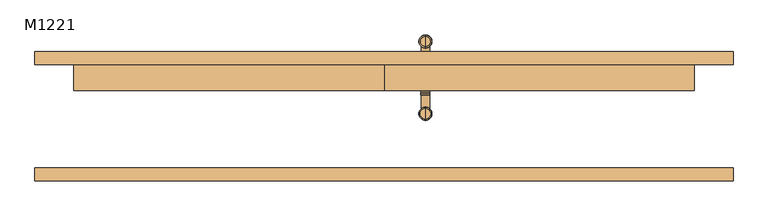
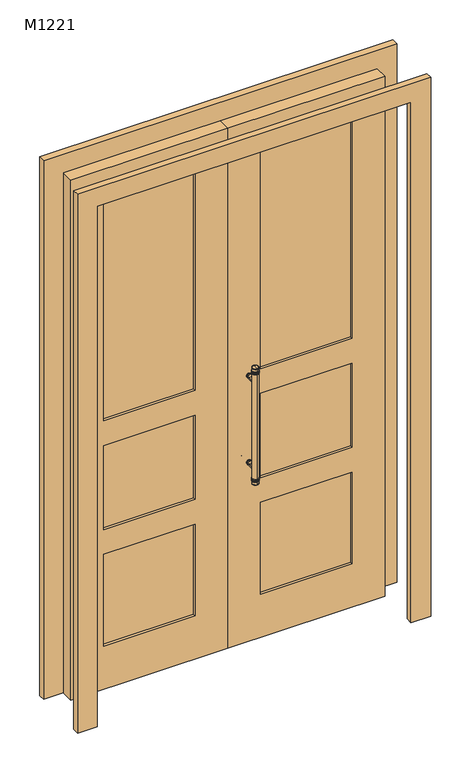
"""IFC4 building model written with IfcOpenShell, lengths in millimetres: door geometry, 双面嵌板木门 2 : M1221."""

from ifc_helpers import new_model, si_unit, point, frame, origin, place, context, project, spatial, polyline, circle_curve, ellipse_curve, trimmed, outline, extrude, source, transform, mapped, element, save
from ifc_brep_helpers import plane_surface, cylinder_surface, revolved_surface, advanced_brep


def m1221_025b83c5(model_context):
    return source(origin(), model_context, "Body", "SolidModel", [
        advanced_brep(
        [(80.0, 100.0, 1075.0), (72.0, 100.0, 1075.0), (88.0, 100.0, 1075.0), (88.0, 109.0, 1075.0), (72.0, 109.0, 1075.0), (80.0, 109.0, 1075.0), (88.0, 106.0, 1075.0), (72.0, 106.0, 1075.0), (88.0, 103.0, 1075.0), (72.0, 103.0, 1075.0)],
        [
            (0, 1),
            (1, 2, circle_curve(frame((80.0, 100.0, 1075.0), z_axis=(0.0, -1.0, 0.0), x_axis=(-1.0, 0.0, 0.0)), 8.0)),
            (2, 0),
            (2, 1, circle_curve(frame((80.0, 100.0, 1075.0), z_axis=(0.0, -1.0, 0.0), x_axis=(-1.0, 0.0, 0.0)), 8.0)),
            (3, 4, circle_curve(frame((80.0, 109.0, 1075.0), z_axis=(0.0, 1.0, 0.0), x_axis=(-1.0, 0.0, 0.0)), 8.0)),
            (4, 5),
            (5, 3),
            (4, 3, circle_curve(frame((80.0, 109.0, 1075.0), z_axis=(0.0, 1.0, 0.0), x_axis=(-1.0, 0.0, 0.0)), 8.0)),
            (6, 7, circle_curve(frame((80.0, 106.0, 1075.0), z_axis=(0.0, 1.0, 0.0), x_axis=(-1.0, 0.0, 0.0)), 8.0)),
            (7, 4, circle_curve(frame((73.3228757, 107.5, 1075.0), z_axis=(0.0, 0.0, -1.0), x_axis=(-1.0, 0.0, 0.0)), 2.0)),
            (3, 6, circle_curve(frame((86.6771243, 107.5, 1075.0), z_axis=(0.0, 0.0, -1.0), x_axis=(1.0, 0.0, 0.0)), 2.0)),
            (7, 6, circle_curve(frame((80.0, 106.0, 1075.0), z_axis=(0.0, 1.0, 0.0), x_axis=(-1.0, 0.0, 0.0)), 8.0)),
            (8, 9, circle_curve(frame((80.0, 103.0, 1075.0), z_axis=(0.0, 1.0, 0.0), x_axis=(-1.0, 0.0, 0.0)), 8.0)),
            (9, 7, circle_curve(frame((73.3228757, 104.5, 1075.0), z_axis=(0.0, 0.0, -1.0), x_axis=(-1.0, 0.0, 0.0)), 2.0)),
            (6, 8, circle_curve(frame((86.6771243, 104.5, 1075.0), z_axis=(0.0, 0.0, -1.0), x_axis=(1.0, 0.0, 0.0)), 2.0)),
            (9, 8, circle_curve(frame((80.0, 103.0, 1075.0), z_axis=(0.0, 1.0, 0.0), x_axis=(-1.0, 0.0, 0.0)), 8.0)),
            (1, 9, circle_curve(frame((73.3228757, 101.5, 1075.0), z_axis=(0.0, 0.0, -1.0), x_axis=(-1.0, 0.0, 0.0)), 2.0)),
            (8, 2, circle_curve(frame((86.6771243, 101.5, 1075.0), z_axis=(0.0, 0.0, -1.0), x_axis=(1.0, 0.0, 0.0)), 2.0)),
        ],
        [
            plane_surface(frame((80.0, 100.0, 1075.0), z_axis=(0.0, -1.0, 0.0), x_axis=(-1.0, 0.0, 0.0))),
            plane_surface(frame((80.0, 109.0, 1075.0), z_axis=(0.0, 1.0, 0.0), x_axis=(-1.0, 0.0, 0.0))),
            revolved_surface(trimmed(ellipse_curve(frame((73.3228757, 107.5, 1075.0), z_axis=(0.0, 0.0, 1.0), x_axis=(-1.0, 0.0, 0.0)), 2.0, 2.0), [point((72.0, 109.0, 1075.0))], [point((72.0, 106.0, 1075.0))], True, "CARTESIAN"), (80.0, -40.0, 1075.0), (0.0, -1.0, 0.0)),
            revolved_surface(trimmed(ellipse_curve(frame((73.3228757, 104.5, 1075.0), z_axis=(0.0, 0.0, 1.0), x_axis=(-1.0, 0.0, 0.0)), 2.0, 2.0), [point((72.0, 106.0, 1075.0))], [point((72.0, 103.0, 1075.0))], True, "CARTESIAN"), (80.0, -40.0, 1075.0), (0.0, -1.0, 0.0)),
            revolved_surface(trimmed(ellipse_curve(frame((73.3228757, 101.5, 1075.0), z_axis=(0.0, 0.0, 1.0), x_axis=(-1.0, 0.0, 0.0)), 2.0, 2.0), [point((72.0, 103.0, 1075.0))], [point((72.0, 100.0, 1075.0))], True, "CARTESIAN"), (80.0, -40.0, 1075.0), (0.0, -1.0, 0.0)),
        ],
        [
            (0, [[1, 2, 3]]),
            (0, [[-3, 4, -1]]),
            (1, [[5, 6, 7]]),
            (1, [[8, -7, -6]]),
            (2, [[9, 10, -5, 11]]),
            (2, [[12, -11, -8, -10]]),
            (3, [[13, 14, -9, 15]]),
            (3, [[16, -15, -12, -14]]),
            (4, [[-2, 17, -13, 18]]),
            (4, [[-4, -18, -16, -17]]),
        ],
    ),
        advanced_brep(
        [(88.0, 47.0, 1075.0), (72.0, 47.0, 1075.0), (72.0, 50.0, 1075.0), (88.0, 50.0, 1075.0), (88.0, 44.0, 1075.0), (72.0, 44.0, 1075.0), (88.0, 41.0, 1075.0), (72.0, 41.0, 1075.0), (80.0, 41.0, 1075.0), (80.0, 50.0, 1075.0)],
        [
            (0, 1, circle_curve(frame((80.0, 47.0, 1075.0), z_axis=(0.0, 1.0, 0.0), x_axis=(-1.0, 0.0, 0.0)), 8.0)),
            (1, 2, circle_curve(frame((73.3228757, 48.5, 1075.0), z_axis=(0.0, 0.0, -1.0), x_axis=(-1.0, 0.0, 0.0)), 2.0)),
            (2, 3, circle_curve(frame((80.0, 50.0, 1075.0), z_axis=(0.0, -1.0, 0.0), x_axis=(-1.0, 0.0, 0.0)), 8.0)),
            (3, 0, circle_curve(frame((86.6771243, 48.5, 1075.0), z_axis=(0.0, 0.0, -1.0), x_axis=(1.0, 0.0, 0.0)), 2.0)),
            (1, 0, circle_curve(frame((80.0, 47.0, 1075.0), z_axis=(0.0, 1.0, 0.0), x_axis=(-1.0, 0.0, 0.0)), 8.0)),
            (3, 2, circle_curve(frame((80.0, 50.0, 1075.0), z_axis=(0.0, -1.0, 0.0), x_axis=(-1.0, 0.0, 0.0)), 8.0)),
            (4, 5, circle_curve(frame((80.0, 44.0, 1075.0), z_axis=(0.0, 1.0, 0.0), x_axis=(-1.0, 0.0, 0.0)), 8.0)),
            (5, 1, circle_curve(frame((73.3228757, 45.5, 1075.0), z_axis=(0.0, 0.0, -1.0), x_axis=(-1.0, 0.0, 0.0)), 2.0)),
            (0, 4, circle_curve(frame((86.6771243, 45.5, 1075.0), z_axis=(0.0, 0.0, -1.0), x_axis=(1.0, 0.0, 0.0)), 2.0)),
            (5, 4, circle_curve(frame((80.0, 44.0, 1075.0), z_axis=(0.0, 1.0, 0.0), x_axis=(-1.0, 0.0, 0.0)), 8.0)),
            (6, 7, circle_curve(frame((80.0, 41.0, 1075.0), z_axis=(0.0, 1.0, 0.0), x_axis=(-1.0, 0.0, 0.0)), 8.0)),
            (7, 5, circle_curve(frame((73.3228757, 42.5, 1075.0), z_axis=(0.0, 0.0, -1.0), x_axis=(-1.0, 0.0, 0.0)), 2.0)),
            (4, 6, circle_curve(frame((86.6771243, 42.5, 1075.0), z_axis=(0.0, 0.0, -1.0), x_axis=(1.0, 0.0, 0.0)), 2.0)),
            (7, 6, circle_curve(frame((80.0, 41.0, 1075.0), z_axis=(0.0, 1.0, 0.0), x_axis=(-1.0, 0.0, 0.0)), 8.0)),
            (8, 7),
            (6, 8),
            (2, 9),
            (9, 3),
        ],
        [
            revolved_surface(trimmed(ellipse_curve(frame((73.3228757, 48.5, 1075.0), z_axis=(0.0, 0.0, 1.0), x_axis=(-1.0, 0.0, 0.0)), 2.0, 2.0), [point((72.0, 50.0, 1075.0))], [point((72.0, 47.0, 1075.0))], True, "CARTESIAN"), (80.0, -40.0, 1075.0), (0.0, -1.0, 0.0)),
            revolved_surface(trimmed(ellipse_curve(frame((73.3228757, 45.5, 1075.0), z_axis=(0.0, 0.0, 1.0), x_axis=(-1.0, 0.0, 0.0)), 2.0, 2.0), [point((72.0, 47.0, 1075.0))], [point((72.0, 44.0, 1075.0))], True, "CARTESIAN"), (80.0, -40.0, 1075.0), (0.0, -1.0, 0.0)),
            revolved_surface(trimmed(ellipse_curve(frame((73.3228757, 42.5, 1075.0), z_axis=(0.0, 0.0, 1.0), x_axis=(-1.0, 0.0, 0.0)), 2.0, 2.0), [point((72.0, 44.0, 1075.0))], [point((72.0, 41.0, 1075.0))], True, "CARTESIAN"), (80.0, -40.0, 1075.0), (0.0, -1.0, 0.0)),
            plane_surface(frame((80.0, 41.0, 1075.0), z_axis=(0.0, -1.0, 0.0), x_axis=(-1.0, 0.0, 0.0))),
            plane_surface(frame((80.0, 50.0, 1075.0), z_axis=(0.0, 1.0, 0.0), x_axis=(-1.0, 0.0, 0.0))),
        ],
        [
            (0, [[1, 2, 3, 4]]),
            (0, [[5, -4, 6, -2]]),
            (1, [[7, 8, -1, 9]]),
            (1, [[10, -9, -5, -8]]),
            (2, [[11, 12, -7, 13]]),
            (2, [[14, -13, -10, -12]]),
            (3, [[15, -11, 16]]),
            (3, [[-16, -14, -15]]),
            (4, [[-3, 17, 18]]),
            (4, [[-6, -18, -17]]),
        ],
    ),
        advanced_brep(
        [(80.0, 100.0, 725.0), (72.0, 100.0, 725.0), (88.0, 100.0, 725.0), (88.0, 109.0, 725.0), (72.0, 109.0, 725.0), (80.0, 109.0, 725.0), (88.0, 106.0, 725.0), (72.0, 106.0, 725.0), (88.0, 103.0, 725.0), (72.0, 103.0, 725.0)],
        [
            (0, 1),
            (1, 2, circle_curve(frame((80.0, 100.0, 725.0), z_axis=(0.0, -1.0, 0.0), x_axis=(-1.0, 0.0, 0.0)), 8.0)),
            (2, 0),
            (2, 1, circle_curve(frame((80.0, 100.0, 725.0), z_axis=(0.0, -1.0, 0.0), x_axis=(-1.0, 0.0, 0.0)), 8.0)),
            (3, 4, circle_curve(frame((80.0, 109.0, 725.0), z_axis=(0.0, 1.0, 0.0), x_axis=(-1.0, 0.0, 0.0)), 8.0)),
            (4, 5),
            (5, 3),
            (4, 3, circle_curve(frame((80.0, 109.0, 725.0), z_axis=(0.0, 1.0, 0.0), x_axis=(-1.0, 0.0, 0.0)), 8.0)),
            (6, 7, circle_curve(frame((80.0, 106.0, 725.0), z_axis=(0.0, 1.0, 0.0), x_axis=(-1.0, 0.0, 0.0)), 8.0)),
            (7, 4, circle_curve(frame((73.3228757, 107.5, 725.0), z_axis=(0.0, 0.0, -1.0), x_axis=(-1.0, 0.0, 0.0)), 2.0)),
            (3, 6, circle_curve(frame((86.6771243, 107.5, 725.0), z_axis=(0.0, 0.0, -1.0), x_axis=(1.0, 0.0, 0.0)), 2.0)),
            (7, 6, circle_curve(frame((80.0, 106.0, 725.0), z_axis=(0.0, 1.0, 0.0), x_axis=(-1.0, 0.0, 0.0)), 8.0)),
            (8, 9, circle_curve(frame((80.0, 103.0, 725.0), z_axis=(0.0, 1.0, 0.0), x_axis=(-1.0, 0.0, 0.0)), 8.0)),
            (9, 7, circle_curve(frame((73.3228757, 104.5, 725.0), z_axis=(0.0, 0.0, -1.0), x_axis=(-1.0, 0.0, 0.0)), 2.0)),
            (6, 8, circle_curve(frame((86.6771243, 104.5, 725.0), z_axis=(0.0, 0.0, -1.0), x_axis=(1.0, 0.0, 0.0)), 2.0)),
            (9, 8, circle_curve(frame((80.0, 103.0, 725.0), z_axis=(0.0, 1.0, 0.0), x_axis=(-1.0, 0.0, 0.0)), 8.0)),
            (1, 9, circle_curve(frame((73.3228757, 101.5, 725.0), z_axis=(0.0, 0.0, -1.0), x_axis=(-1.0, 0.0, 0.0)), 2.0)),
            (8, 2, circle_curve(frame((86.6771243, 101.5, 725.0), z_axis=(0.0, 0.0, -1.0), x_axis=(1.0, 0.0, 0.0)), 2.0)),
        ],
        [
            plane_surface(frame((80.0, 100.0, 725.0), z_axis=(0.0, -1.0, 0.0), x_axis=(-1.0, 0.0, 0.0))),
            plane_surface(frame((80.0, 109.0, 725.0), z_axis=(0.0, 1.0, 0.0), x_axis=(-1.0, 0.0, 0.0))),
            revolved_surface(trimmed(ellipse_curve(frame((73.3228757, 107.5, 725.0), z_axis=(0.0, 0.0, 1.0), x_axis=(-1.0, 0.0, 0.0)), 2.0, 2.0), [point((72.0, 109.0, 725.0))], [point((72.0, 106.0, 725.0))], True, "CARTESIAN"), (80.0, -40.0, 725.0), (0.0, -1.0, 0.0)),
            revolved_surface(trimmed(ellipse_curve(frame((73.3228757, 104.5, 725.0), z_axis=(0.0, 0.0, 1.0), x_axis=(-1.0, 0.0, 0.0)), 2.0, 2.0), [point((72.0, 106.0, 725.0))], [point((72.0, 103.0, 725.0))], True, "CARTESIAN"), (80.0, -40.0, 725.0), (0.0, -1.0, 0.0)),
            revolved_surface(trimmed(ellipse_curve(frame((73.3228757, 101.5, 725.0), z_axis=(0.0, 0.0, 1.0), x_axis=(-1.0, 0.0, 0.0)), 2.0, 2.0), [point((72.0, 103.0, 725.0))], [point((72.0, 100.0, 725.0))], True, "CARTESIAN"), (80.0, -40.0, 725.0), (0.0, -1.0, 0.0)),
        ],
        [
            (0, [[1, 2, 3]]),
            (0, [[-3, 4, -1]]),
            (1, [[5, 6, 7]]),
            (1, [[8, -7, -6]]),
            (2, [[9, 10, -5, 11]]),
            (2, [[12, -11, -8, -10]]),
            (3, [[13, 14, -9, 15]]),
            (3, [[16, -15, -12, -14]]),
            (4, [[-2, 17, -13, 18]]),
            (4, [[-4, -18, -16, -17]]),
        ],
    ),
        advanced_brep(
        [(88.0, 47.0, 725.0), (72.0, 47.0, 725.0), (72.0, 50.0, 725.0), (88.0, 50.0, 725.0), (88.0, 44.0, 725.0), (72.0, 44.0, 725.0), (88.0, 41.0, 725.0), (72.0, 41.0, 725.0), (80.0, 41.0, 725.0), (80.0, 50.0, 725.0)],
        [
            (0, 1, circle_curve(frame((80.0, 47.0, 725.0), z_axis=(0.0, 1.0, 0.0), x_axis=(-1.0, 0.0, 0.0)), 8.0)),
            (1, 2, circle_curve(frame((73.3228757, 48.5, 725.0), z_axis=(0.0, 0.0, -1.0), x_axis=(-1.0, 0.0, 0.0)), 2.0)),
            (2, 3, circle_curve(frame((80.0, 50.0, 725.0), z_axis=(0.0, -1.0, 0.0), x_axis=(-1.0, 0.0, 0.0)), 8.0)),
            (3, 0, circle_curve(frame((86.6771243, 48.5, 725.0), z_axis=(0.0, 0.0, -1.0), x_axis=(1.0, 0.0, 0.0)), 2.0)),
            (1, 0, circle_curve(frame((80.0, 47.0, 725.0), z_axis=(0.0, 1.0, 0.0), x_axis=(-1.0, 0.0, 0.0)), 8.0)),
            (3, 2, circle_curve(frame((80.0, 50.0, 725.0), z_axis=(0.0, -1.0, 0.0), x_axis=(-1.0, 0.0, 0.0)), 8.0)),
            (4, 5, circle_curve(frame((80.0, 44.0, 725.0), z_axis=(0.0, 1.0, 0.0), x_axis=(-1.0, 0.0, 0.0)), 8.0)),
            (5, 1, circle_curve(frame((73.3228757, 45.5, 725.0), z_axis=(0.0, 0.0, -1.0), x_axis=(-1.0, 0.0, 0.0)), 2.0)),
            (0, 4, circle_curve(frame((86.6771243, 45.5, 725.0), z_axis=(0.0, 0.0, -1.0), x_axis=(1.0, 0.0, 0.0)), 2.0)),
            (5, 4, circle_curve(frame((80.0, 44.0, 725.0), z_axis=(0.0, 1.0, 0.0), x_axis=(-1.0, 0.0, 0.0)), 8.0)),
            (6, 7, circle_curve(frame((80.0, 41.0, 725.0), z_axis=(0.0, 1.0, 0.0), x_axis=(-1.0, 0.0, 0.0)), 8.0)),
            (7, 5, circle_curve(frame((73.3228757, 42.5, 725.0), z_axis=(0.0, 0.0, -1.0), x_axis=(-1.0, 0.0, 0.0)), 2.0)),
            (4, 6, circle_curve(frame((86.6771243, 42.5, 725.0), z_axis=(0.0, 0.0, -1.0), x_axis=(1.0, 0.0, 0.0)), 2.0)),
            (7, 6, circle_curve(frame((80.0, 41.0, 725.0), z_axis=(0.0, 1.0, 0.0), x_axis=(-1.0, 0.0, 0.0)), 8.0)),
            (8, 7),
            (6, 8),
            (2, 9),
            (9, 3),
        ],
        [
            revolved_surface(trimmed(ellipse_curve(frame((73.3228757, 48.5, 725.0), z_axis=(0.0, 0.0, 1.0), x_axis=(-1.0, 0.0, 0.0)), 2.0, 2.0), [point((72.0, 50.0, 725.0))], [point((72.0, 47.0, 725.0))], True, "CARTESIAN"), (80.0, -40.0, 725.0), (0.0, -1.0, 0.0)),
            revolved_surface(trimmed(ellipse_curve(frame((73.3228757, 45.5, 725.0), z_axis=(0.0, 0.0, 1.0), x_axis=(-1.0, 0.0, 0.0)), 2.0, 2.0), [point((72.0, 47.0, 725.0))], [point((72.0, 44.0, 725.0))], True, "CARTESIAN"), (80.0, -40.0, 725.0), (0.0, -1.0, 0.0)),
            revolved_surface(trimmed(ellipse_curve(frame((73.3228757, 42.5, 725.0), z_axis=(0.0, 0.0, 1.0), x_axis=(-1.0, 0.0, 0.0)), 2.0, 2.0), [point((72.0, 44.0, 725.0))], [point((72.0, 41.0, 725.0))], True, "CARTESIAN"), (80.0, -40.0, 725.0), (0.0, -1.0, 0.0)),
            plane_surface(frame((80.0, 41.0, 725.0), z_axis=(0.0, -1.0, 0.0), x_axis=(-1.0, 0.0, 0.0))),
            plane_surface(frame((80.0, 50.0, 725.0), z_axis=(0.0, 1.0, 0.0), x_axis=(-1.0, 0.0, 0.0))),
        ],
        [
            (0, [[1, 2, 3, 4]]),
            (0, [[5, -4, 6, -2]]),
            (1, [[7, 8, -1, 9]]),
            (1, [[10, -9, -5, -8]]),
            (2, [[11, 12, -7, 13]]),
            (2, [[14, -13, -10, -12]]),
            (3, [[15, -11, 16]]),
            (3, [[-16, -14, -15]]),
            (4, [[-3, 17, 18]]),
            (4, [[-6, -18, -17]]),
        ],
    ),
        advanced_brep(
        [(80.0, 133.0, 1111.0), (80.0, 157.0, 1111.0), (80.0, 145.0, 1111.0), (80.0, 133.0, 1114.0), (80.0, 157.0, 1114.0), (80.0, 133.0, 1117.0), (80.0, 157.0, 1117.0), (80.0, 133.0, 1120.0), (80.0, 157.0, 1120.0), (80.0, 133.0, 1123.0), (80.0, 157.0, 1123.0), (80.0, 145.0, 1123.0)],
        [
            (0, 1, circle_curve(frame((80.0, 145.0, 1111.0), z_axis=(0.0, 0.0, -1.0), x_axis=(0.0, 1.0, 0.0)), 12.0)),
            (1, 2),
            (2, 0),
            (1, 0, circle_curve(frame((80.0, 145.0, 1111.0), z_axis=(0.0, 0.0, -1.0), x_axis=(0.0, 1.0, 0.0)), 12.0)),
            (3, 4, circle_curve(frame((80.0, 145.0, 1114.0), z_axis=(0.0, 0.0, -1.0), x_axis=(0.0, 1.0, 0.0)), 12.0)),
            (4, 1, circle_curve(frame((80.0, 155.6771243, 1112.5), z_axis=(-1.0, 0.0, 0.0), x_axis=(0.0, 1.0, 0.0)), 2.0)),
            (0, 3, circle_curve(frame((80.0, 134.3228757, 1112.5), z_axis=(-1.0, 0.0, 0.0), x_axis=(0.0, -1.0, 0.0)), 2.0)),
            (4, 3, circle_curve(frame((80.0, 145.0, 1114.0), z_axis=(0.0, 0.0, -1.0), x_axis=(0.0, 1.0, 0.0)), 12.0)),
            (5, 6, circle_curve(frame((80.0, 145.0, 1117.0), z_axis=(0.0, 0.0, -1.0), x_axis=(0.0, 1.0, 0.0)), 12.0)),
            (6, 4, circle_curve(frame((80.0, 155.6771243, 1115.5), z_axis=(-1.0, 0.0, 0.0), x_axis=(0.0, 1.0, 0.0)), 2.0)),
            (3, 5, circle_curve(frame((80.0, 134.3228757, 1115.5), z_axis=(-1.0, 0.0, 0.0), x_axis=(0.0, -1.0, 0.0)), 2.0)),
            (6, 5, circle_curve(frame((80.0, 145.0, 1117.0), z_axis=(0.0, 0.0, -1.0), x_axis=(0.0, 1.0, 0.0)), 12.0)),
            (7, 8, circle_curve(frame((80.0, 145.0, 1120.0), z_axis=(0.0, 0.0, -1.0), x_axis=(0.0, 1.0, 0.0)), 12.0)),
            (8, 6, circle_curve(frame((80.0, 155.6771243, 1118.5), z_axis=(-1.0, 0.0, 0.0), x_axis=(0.0, 1.0, 0.0)), 2.0)),
            (5, 7, circle_curve(frame((80.0, 134.3228757, 1118.5), z_axis=(-1.0, 0.0, 0.0), x_axis=(0.0, -1.0, 0.0)), 2.0)),
            (8, 7, circle_curve(frame((80.0, 145.0, 1120.0), z_axis=(0.0, 0.0, -1.0), x_axis=(0.0, 1.0, 0.0)), 12.0)),
            (9, 10, circle_curve(frame((80.0, 145.0, 1123.0), z_axis=(0.0, 0.0, -1.0), x_axis=(0.0, 1.0, 0.0)), 12.0)),
            (10, 8, circle_curve(frame((80.0, 155.6771243, 1121.5), z_axis=(-1.0, 0.0, 0.0), x_axis=(0.0, 1.0, 0.0)), 2.0)),
            (7, 9, circle_curve(frame((80.0, 134.3228757, 1121.5), z_axis=(-1.0, 0.0, 0.0), x_axis=(0.0, -1.0, 0.0)), 2.0)),
            (10, 9, circle_curve(frame((80.0, 145.0, 1123.0), z_axis=(0.0, 0.0, -1.0), x_axis=(0.0, 1.0, 0.0)), 12.0)),
            (11, 10),
            (9, 11),
        ],
        [
            plane_surface(frame((80.0, 145.0, 1111.0), z_axis=(0.0, 0.0, -1.0), x_axis=(0.0, 1.0, 0.0))),
            revolved_surface(trimmed(ellipse_curve(frame((80.0, 155.6771243, 1112.5), z_axis=(1.0, 0.0, 0.0), x_axis=(0.0, 1.0, 0.0)), 2.0, 2.0), [point((80.0, 157.0, 1111.0))], [point((80.0, 157.0, 1114.0))], True, "CARTESIAN"), (80.0, 145.0, 715.0), (0.0, 0.0, 1.0)),
            revolved_surface(trimmed(ellipse_curve(frame((80.0, 155.6771243, 1115.5), z_axis=(1.0, 0.0, 0.0), x_axis=(0.0, 1.0, 0.0)), 2.0, 2.0), [point((80.0, 157.0, 1114.0))], [point((80.0, 157.0, 1117.0))], True, "CARTESIAN"), (80.0, 145.0, 715.0), (0.0, 0.0, 1.0)),
            revolved_surface(trimmed(ellipse_curve(frame((80.0, 155.6771243, 1118.5), z_axis=(1.0, 0.0, 0.0), x_axis=(0.0, 1.0, 0.0)), 2.0, 2.0), [point((80.0, 157.0, 1117.0))], [point((80.0, 157.0, 1120.0))], True, "CARTESIAN"), (80.0, 145.0, 715.0), (0.0, 0.0, 1.0)),
            revolved_surface(trimmed(ellipse_curve(frame((80.0, 155.6771243, 1121.5), z_axis=(1.0, 0.0, 0.0), x_axis=(0.0, 1.0, 0.0)), 2.0, 2.0), [point((80.0, 157.0, 1120.0))], [point((80.0, 157.0, 1123.0))], True, "CARTESIAN"), (80.0, 145.0, 715.0), (0.0, 0.0, 1.0)),
            plane_surface(frame((80.0, 145.0, 1123.0), z_axis=(0.0, 0.0, 1.0), x_axis=(0.0, 1.0, 0.0))),
        ],
        [
            (0, [[1, 2, 3]]),
            (0, [[4, -3, -2]]),
            (1, [[5, 6, -1, 7]]),
            (1, [[8, -7, -4, -6]]),
            (2, [[9, 10, -5, 11]]),
            (2, [[12, -11, -8, -10]]),
            (3, [[13, 14, -9, 15]]),
            (3, [[16, -15, -12, -14]]),
            (4, [[17, 18, -13, 19]]),
            (4, [[20, -19, -16, -18]]),
            (5, [[21, -17, 22]]),
            (5, [[-22, -20, -21]]),
        ],
    ),
        advanced_brep(
        [(80.0, 133.0, 677.0), (80.0, 157.0, 677.0), (80.0, 145.0, 677.0), (80.0, 133.0, 680.0), (80.0, 157.0, 680.0), (80.0, 133.0, 683.0), (80.0, 157.0, 683.0), (80.0, 133.0, 686.0), (80.0, 157.0, 686.0), (80.0, 133.0, 689.0), (80.0, 157.0, 689.0), (80.0, 145.0, 689.0)],
        [
            (0, 1, circle_curve(frame((80.0, 145.0, 677.0), z_axis=(0.0, 0.0, -1.0), x_axis=(0.0, 1.0, 0.0)), 12.0)),
            (1, 2),
            (2, 0),
            (1, 0, circle_curve(frame((80.0, 145.0, 677.0), z_axis=(0.0, 0.0, -1.0), x_axis=(0.0, 1.0, 0.0)), 12.0)),
            (3, 4, circle_curve(frame((80.0, 145.0, 680.0), z_axis=(0.0, 0.0, -1.0), x_axis=(0.0, 1.0, 0.0)), 12.0)),
            (4, 1, circle_curve(frame((80.0, 155.6771243, 678.5), z_axis=(-1.0, 0.0, 0.0), x_axis=(0.0, 1.0, 0.0)), 2.0)),
            (0, 3, circle_curve(frame((80.0, 134.3228757, 678.5), z_axis=(-1.0, 0.0, 0.0), x_axis=(0.0, -1.0, 0.0)), 2.0)),
            (4, 3, circle_curve(frame((80.0, 145.0, 680.0), z_axis=(0.0, 0.0, -1.0), x_axis=(0.0, 1.0, 0.0)), 12.0)),
            (5, 6, circle_curve(frame((80.0, 145.0, 683.0), z_axis=(0.0, 0.0, -1.0), x_axis=(0.0, 1.0, 0.0)), 12.0)),
            (6, 4, circle_curve(frame((80.0, 155.6771243, 681.5), z_axis=(-1.0, 0.0, 0.0), x_axis=(0.0, 1.0, 0.0)), 2.0)),
            (3, 5, circle_curve(frame((80.0, 134.3228757, 681.5), z_axis=(-1.0, 0.0, 0.0), x_axis=(0.0, -1.0, 0.0)), 2.0)),
            (6, 5, circle_curve(frame((80.0, 145.0, 683.0), z_axis=(0.0, 0.0, -1.0), x_axis=(0.0, 1.0, 0.0)), 12.0)),
            (7, 8, circle_curve(frame((80.0, 145.0, 686.0), z_axis=(0.0, 0.0, -1.0), x_axis=(0.0, 1.0, 0.0)), 12.0)),
            (8, 6, circle_curve(frame((80.0, 155.6771243, 684.5), z_axis=(-1.0, 0.0, 0.0), x_axis=(0.0, 1.0, 0.0)), 2.0)),
            (5, 7, circle_curve(frame((80.0, 134.3228757, 684.5), z_axis=(-1.0, 0.0, 0.0), x_axis=(0.0, -1.0, 0.0)), 2.0)),
            (8, 7, circle_curve(frame((80.0, 145.0, 686.0), z_axis=(0.0, 0.0, -1.0), x_axis=(0.0, 1.0, 0.0)), 12.0)),
            (9, 10, circle_curve(frame((80.0, 145.0, 689.0), z_axis=(0.0, 0.0, -1.0), x_axis=(0.0, 1.0, 0.0)), 12.0)),
            (10, 8, circle_curve(frame((80.0, 155.6771243, 687.5), z_axis=(-1.0, 0.0, 0.0), x_axis=(0.0, 1.0, 0.0)), 2.0)),
            (7, 9, circle_curve(frame((80.0, 134.3228757, 687.5), z_axis=(-1.0, 0.0, 0.0), x_axis=(0.0, -1.0, 0.0)), 2.0)),
            (10, 9, circle_curve(frame((80.0, 145.0, 689.0), z_axis=(0.0, 0.0, -1.0), x_axis=(0.0, 1.0, 0.0)), 12.0)),
            (11, 10),
            (9, 11),
        ],
        [
            plane_surface(frame((80.0, 145.0, 677.0), z_axis=(0.0, 0.0, -1.0), x_axis=(0.0, 1.0, 0.0))),
            revolved_surface(trimmed(ellipse_curve(frame((80.0, 155.6771243, 678.5), z_axis=(1.0, 0.0, 0.0), x_axis=(0.0, 1.0, 0.0)), 2.0, 2.0), [point((80.0, 157.0, 677.0))], [point((80.0, 157.0, 680.0))], True, "CARTESIAN"), (80.0, 145.0, 715.0), (0.0, 0.0, 1.0)),
            revolved_surface(trimmed(ellipse_curve(frame((80.0, 155.6771243, 681.5), z_axis=(1.0, 0.0, 0.0), x_axis=(0.0, 1.0, 0.0)), 2.0, 2.0), [point((80.0, 157.0, 680.0))], [point((80.0, 157.0, 683.0))], True, "CARTESIAN"), (80.0, 145.0, 715.0), (0.0, 0.0, 1.0)),
            revolved_surface(trimmed(ellipse_curve(frame((80.0, 155.6771243, 684.5), z_axis=(1.0, 0.0, 0.0), x_axis=(0.0, 1.0, 0.0)), 2.0, 2.0), [point((80.0, 157.0, 683.0))], [point((80.0, 157.0, 686.0))], True, "CARTESIAN"), (80.0, 145.0, 715.0), (0.0, 0.0, 1.0)),
            revolved_surface(trimmed(ellipse_curve(frame((80.0, 155.6771243, 687.5), z_axis=(1.0, 0.0, 0.0), x_axis=(0.0, 1.0, 0.0)), 2.0, 2.0), [point((80.0, 157.0, 686.0))], [point((80.0, 157.0, 689.0))], True, "CARTESIAN"), (80.0, 145.0, 715.0), (0.0, 0.0, 1.0)),
            plane_surface(frame((80.0, 145.0, 689.0), z_axis=(0.0, 0.0, 1.0), x_axis=(0.0, 1.0, 0.0))),
        ],
        [
            (0, [[1, 2, 3]]),
            (0, [[4, -3, -2]]),
            (1, [[5, 6, -1, 7]]),
            (1, [[8, -7, -4, -6]]),
            (2, [[9, 10, -5, 11]]),
            (2, [[12, -11, -8, -10]]),
            (3, [[13, 14, -9, 15]]),
            (3, [[16, -15, -12, -14]]),
            (4, [[17, 18, -13, 19]]),
            (4, [[20, -19, -16, -18]]),
            (5, [[21, -17, 22]]),
            (5, [[-22, -20, -21]]),
        ],
    ),
        advanced_brep(
        [(80.0, 17.0, 1119.8958565), (80.0, -7.0, 1119.8958565), (80.0, -7.0, 1122.8958565), (80.0, 17.0, 1122.8958565), (80.0, 17.0, 1116.8958565), (80.0, -7.0, 1116.8958565), (80.0, 17.0, 1113.8958565), (80.0, -7.0, 1113.8958565), (80.0, 17.0, 1110.8958565), (80.0, -7.0, 1110.8958565), (80.0, 5.0, 1110.8958565), (80.0, 5.0, 1122.8958565)],
        [
            (0, 1, circle_curve(frame((80.0, 5.0, 1119.8958565), z_axis=(0.0, 0.0, 1.0), x_axis=(0.0, -1.0, 0.0)), 12.0)),
            (1, 2, circle_curve(frame((80.0, -5.6771243, 1121.3958565), z_axis=(-1.0, 0.0, 0.0), x_axis=(0.0, 1.0, 0.0)), 2.0)),
            (2, 3, circle_curve(frame((80.0, 5.0, 1122.8958565), z_axis=(0.0, 0.0, -1.0), x_axis=(0.0, -1.0, 0.0)), 12.0)),
            (3, 0, circle_curve(frame((80.0, 15.6771243, 1121.3958565), z_axis=(-1.0, 0.0, 0.0), x_axis=(0.0, -1.0, 0.0)), 2.0)),
            (1, 0, circle_curve(frame((80.0, 5.0, 1119.8958565), z_axis=(0.0, 0.0, 1.0), x_axis=(0.0, -1.0, 0.0)), 12.0)),
            (3, 2, circle_curve(frame((80.0, 5.0, 1122.8958565), z_axis=(0.0, 0.0, -1.0), x_axis=(0.0, -1.0, 0.0)), 12.0)),
            (4, 5, circle_curve(frame((80.0, 5.0, 1116.8958565), z_axis=(0.0, 0.0, 1.0), x_axis=(0.0, -1.0, 0.0)), 12.0)),
            (5, 1, circle_curve(frame((80.0, -5.6771243, 1118.3958565), z_axis=(-1.0, 0.0, 0.0), x_axis=(0.0, 1.0, 0.0)), 2.0)),
            (0, 4, circle_curve(frame((80.0, 15.6771243, 1118.3958565), z_axis=(-1.0, 0.0, 0.0), x_axis=(0.0, -1.0, 0.0)), 2.0)),
            (5, 4, circle_curve(frame((80.0, 5.0, 1116.8958565), z_axis=(0.0, 0.0, 1.0), x_axis=(0.0, -1.0, 0.0)), 12.0)),
            (6, 7, circle_curve(frame((80.0, 5.0, 1113.8958565), z_axis=(0.0, 0.0, 1.0), x_axis=(0.0, -1.0, 0.0)), 12.0)),
            (7, 5, circle_curve(frame((80.0, -5.6771243, 1115.3958565), z_axis=(-1.0, 0.0, 0.0), x_axis=(0.0, 1.0, 0.0)), 2.0)),
            (4, 6, circle_curve(frame((80.0, 15.6771243, 1115.3958565), z_axis=(-1.0, 0.0, 0.0), x_axis=(0.0, -1.0, 0.0)), 2.0)),
            (7, 6, circle_curve(frame((80.0, 5.0, 1113.8958565), z_axis=(0.0, 0.0, 1.0), x_axis=(0.0, -1.0, 0.0)), 12.0)),
            (8, 9, circle_curve(frame((80.0, 5.0, 1110.8958565), z_axis=(0.0, 0.0, 1.0), x_axis=(0.0, -1.0, 0.0)), 12.0)),
            (9, 7, circle_curve(frame((80.0, -5.6771243, 1112.3958565), z_axis=(-1.0, 0.0, 0.0), x_axis=(0.0, 1.0, 0.0)), 2.0)),
            (6, 8, circle_curve(frame((80.0, 15.6771243, 1112.3958565), z_axis=(-1.0, 0.0, 0.0), x_axis=(0.0, -1.0, 0.0)), 2.0)),
            (9, 8, circle_curve(frame((80.0, 5.0, 1110.8958565), z_axis=(0.0, 0.0, 1.0), x_axis=(0.0, -1.0, 0.0)), 12.0)),
            (10, 9),
            (8, 10),
            (2, 11),
            (11, 3),
        ],
        [
            revolved_surface(trimmed(ellipse_curve(frame((80.0, -5.6771243, 1121.3958565), z_axis=(1.0, 0.0, 0.0), x_axis=(0.0, 1.0, 0.0)), 2.0, 2.0), [point((80.0, -7.0, 1122.8958565))], [point((80.0, -7.0, 1119.8958565))], True, "CARTESIAN"), (80.0, 5.0, 715.0), (0.0, 0.0, -1.0)),
            revolved_surface(trimmed(ellipse_curve(frame((80.0, -5.6771243, 1118.3958565), z_axis=(1.0, 0.0, 0.0), x_axis=(0.0, 1.0, 0.0)), 2.0, 2.0), [point((80.0, -7.0, 1119.8958565))], [point((80.0, -7.0, 1116.8958565))], True, "CARTESIAN"), (80.0, 5.0, 715.0), (0.0, 0.0, -1.0)),
            revolved_surface(trimmed(ellipse_curve(frame((80.0, -5.6771243, 1115.3958565), z_axis=(1.0, 0.0, 0.0), x_axis=(0.0, 1.0, 0.0)), 2.0, 2.0), [point((80.0, -7.0, 1116.8958565))], [point((80.0, -7.0, 1113.8958565))], True, "CARTESIAN"), (80.0, 5.0, 715.0), (0.0, 0.0, -1.0)),
            revolved_surface(trimmed(ellipse_curve(frame((80.0, -5.6771243, 1112.3958565), z_axis=(1.0, 0.0, 0.0), x_axis=(0.0, 1.0, 0.0)), 2.0, 2.0), [point((80.0, -7.0, 1113.8958565))], [point((80.0, -7.0, 1110.8958565))], True, "CARTESIAN"), (80.0, 5.0, 715.0), (0.0, 0.0, -1.0)),
            plane_surface(frame((80.0, 5.0, 1110.8958565), z_axis=(0.0, 0.0, -1.0), x_axis=(0.0, -1.0, 0.0))),
            plane_surface(frame((80.0, 5.0, 1122.8958565), z_axis=(0.0, 0.0, 1.0), x_axis=(0.0, -1.0, 0.0))),
        ],
        [
            (0, [[1, 2, 3, 4]]),
            (0, [[5, -4, 6, -2]]),
            (1, [[7, 8, -1, 9]]),
            (1, [[10, -9, -5, -8]]),
            (2, [[11, 12, -7, 13]]),
            (2, [[14, -13, -10, -12]]),
            (3, [[15, 16, -11, 17]]),
            (3, [[18, -17, -14, -16]]),
            (4, [[19, -15, 20]]),
            (4, [[-20, -18, -19]]),
            (5, [[-3, 21, 22]]),
            (5, [[-6, -22, -21]]),
        ],
    ),
        advanced_brep(
        [(80.0, 17.0, 689.0), (80.0, -7.0, 689.0), (80.0, 5.0, 689.0), (80.0, 17.0, 686.0), (80.0, -7.0, 686.0), (80.0, 17.0, 683.0), (80.0, -7.0, 683.0), (80.0, 17.0, 680.0), (80.0, -7.0, 680.0), (80.0, 17.0, 677.0), (80.0, -7.0, 677.0), (80.0, 5.0, 677.0)],
        [
            (0, 1, circle_curve(frame((80.0, 5.0, 689.0), z_axis=(0.0, 0.0, 1.0), x_axis=(0.0, -1.0, 0.0)), 12.0)),
            (1, 2),
            (2, 0),
            (1, 0, circle_curve(frame((80.0, 5.0, 689.0), z_axis=(0.0, 0.0, 1.0), x_axis=(0.0, -1.0, 0.0)), 12.0)),
            (3, 4, circle_curve(frame((80.0, 5.0, 686.0), z_axis=(0.0, 0.0, 1.0), x_axis=(0.0, -1.0, 0.0)), 12.0)),
            (4, 1, circle_curve(frame((80.0, -5.6771243, 687.5), z_axis=(-1.0, 0.0, 0.0), x_axis=(0.0, 1.0, 0.0)), 2.0)),
            (0, 3, circle_curve(frame((80.0, 15.6771243, 687.5), z_axis=(-1.0, 0.0, 0.0), x_axis=(0.0, -1.0, 0.0)), 2.0)),
            (4, 3, circle_curve(frame((80.0, 5.0, 686.0), z_axis=(0.0, 0.0, 1.0), x_axis=(0.0, -1.0, 0.0)), 12.0)),
            (5, 6, circle_curve(frame((80.0, 5.0, 683.0), z_axis=(0.0, 0.0, 1.0), x_axis=(0.0, -1.0, 0.0)), 12.0)),
            (6, 4, circle_curve(frame((80.0, -5.6771243, 684.5), z_axis=(-1.0, 0.0, 0.0), x_axis=(0.0, 1.0, 0.0)), 2.0)),
            (3, 5, circle_curve(frame((80.0, 15.6771243, 684.5), z_axis=(-1.0, 0.0, 0.0), x_axis=(0.0, -1.0, 0.0)), 2.0)),
            (6, 5, circle_curve(frame((80.0, 5.0, 683.0), z_axis=(0.0, 0.0, 1.0), x_axis=(0.0, -1.0, 0.0)), 12.0)),
            (7, 8, circle_curve(frame((80.0, 5.0, 680.0), z_axis=(0.0, 0.0, 1.0), x_axis=(0.0, -1.0, 0.0)), 12.0)),
            (8, 6, circle_curve(frame((80.0, -5.6771243, 681.5), z_axis=(-1.0, 0.0, 0.0), x_axis=(0.0, 1.0, 0.0)), 2.0)),
            (5, 7, circle_curve(frame((80.0, 15.6771243, 681.5), z_axis=(-1.0, 0.0, 0.0), x_axis=(0.0, -1.0, 0.0)), 2.0)),
            (8, 7, circle_curve(frame((80.0, 5.0, 680.0), z_axis=(0.0, 0.0, 1.0), x_axis=(0.0, -1.0, 0.0)), 12.0)),
            (9, 10, circle_curve(frame((80.0, 5.0, 677.0), z_axis=(0.0, 0.0, 1.0), x_axis=(0.0, -1.0, 0.0)), 12.0)),
            (10, 8, circle_curve(frame((80.0, -5.6771243, 678.5), z_axis=(-1.0, 0.0, 0.0), x_axis=(0.0, 1.0, 0.0)), 2.0)),
            (7, 9, circle_curve(frame((80.0, 15.6771243, 678.5), z_axis=(-1.0, 0.0, 0.0), x_axis=(0.0, -1.0, 0.0)), 2.0)),
            (10, 9, circle_curve(frame((80.0, 5.0, 677.0), z_axis=(0.0, 0.0, 1.0), x_axis=(0.0, -1.0, 0.0)), 12.0)),
            (11, 10),
            (9, 11),
        ],
        [
            plane_surface(frame((80.0, 5.0, 689.0), z_axis=(0.0, 0.0, 1.0), x_axis=(0.0, -1.0, 0.0))),
            revolved_surface(trimmed(ellipse_curve(frame((80.0, -5.6771243, 687.5), z_axis=(1.0, 0.0, 0.0), x_axis=(0.0, 1.0, 0.0)), 2.0, 2.0), [point((80.0, -7.0, 689.0))], [point((80.0, -7.0, 686.0))], True, "CARTESIAN"), (80.0, 5.0, 715.0), (0.0, 0.0, -1.0)),
            revolved_surface(trimmed(ellipse_curve(frame((80.0, -5.6771243, 684.5), z_axis=(1.0, 0.0, 0.0), x_axis=(0.0, 1.0, 0.0)), 2.0, 2.0), [point((80.0, -7.0, 686.0))], [point((80.0, -7.0, 683.0))], True, "CARTESIAN"), (80.0, 5.0, 715.0), (0.0, 0.0, -1.0)),
            revolved_surface(trimmed(ellipse_curve(frame((80.0, -5.6771243, 681.5), z_axis=(1.0, 0.0, 0.0), x_axis=(0.0, 1.0, 0.0)), 2.0, 2.0), [point((80.0, -7.0, 683.0))], [point((80.0, -7.0, 680.0))], True, "CARTESIAN"), (80.0, 5.0, 715.0), (0.0, 0.0, -1.0)),
            revolved_surface(trimmed(ellipse_curve(frame((80.0, -5.6771243, 678.5), z_axis=(1.0, 0.0, 0.0), x_axis=(0.0, 1.0, 0.0)), 2.0, 2.0), [point((80.0, -7.0, 680.0))], [point((80.0, -7.0, 677.0))], True, "CARTESIAN"), (80.0, 5.0, 715.0), (0.0, 0.0, -1.0)),
            plane_surface(frame((80.0, 5.0, 677.0), z_axis=(0.0, 0.0, -1.0), x_axis=(0.0, -1.0, 0.0))),
        ],
        [
            (0, [[1, 2, 3]]),
            (0, [[4, -3, -2]]),
            (1, [[5, 6, -1, 7]]),
            (1, [[8, -7, -4, -6]]),
            (2, [[9, 10, -5, 11]]),
            (2, [[12, -11, -8, -10]]),
            (3, [[13, 14, -9, 15]]),
            (3, [[16, -15, -12, -14]]),
            (4, [[17, 18, -13, 19]]),
            (4, [[20, -19, -16, -18]]),
            (5, [[21, -17, 22]]),
            (5, [[-22, -20, -21]]),
        ],
    ),
        advanced_brep(
        [(80.0, 133.0, 667.0), (80.0, 157.0, 667.0), (80.0, 155.0, 665.0), (80.0, 135.0, 665.0), (80.0, 133.0, 1133.0), (80.0, 157.0, 1133.0), (80.0, 135.0, 1135.0), (80.0, 155.0, 1135.0), (80.0, 145.0, 1135.0), (80.0, 145.0, 665.0)],
        [
            (0, 1, circle_curve(frame((80.0, 145.0, 667.0), z_axis=(0.0, 0.0, -1.0), x_axis=(0.0, 1.0, 0.0)), 12.0)),
            (1, 2, circle_curve(frame((80.0, 155.0, 667.0), z_axis=(-1.0, 0.0, 0.0), x_axis=(0.0, 1.0, 0.0)), 2.0)),
            (2, 3, circle_curve(frame((80.0, 145.0, 665.0), z_axis=(0.0, 0.0, 1.0), x_axis=(0.0, 1.0, 0.0)), 10.0)),
            (3, 0, circle_curve(frame((80.0, 135.0, 667.0), z_axis=(-1.0, 0.0, 0.0), x_axis=(0.0, -1.0, 0.0)), 2.0)),
            (1, 0, circle_curve(frame((80.0, 145.0, 667.0), z_axis=(0.0, 0.0, -1.0), x_axis=(0.0, 1.0, 0.0)), 12.0)),
            (3, 2, circle_curve(frame((80.0, 145.0, 665.0), z_axis=(0.0, 0.0, 1.0), x_axis=(0.0, 1.0, 0.0)), 10.0)),
            (4, 5, circle_curve(frame((80.0, 145.0, 1133.0), z_axis=(0.0, 0.0, -1.0), x_axis=(0.0, 1.0, 0.0)), 12.0)),
            (5, 1),
            (0, 4),
            (5, 4, circle_curve(frame((80.0, 145.0, 1133.0), z_axis=(0.0, 0.0, -1.0), x_axis=(0.0, 1.0, 0.0)), 12.0)),
            (6, 7, circle_curve(frame((80.0, 145.0, 1135.0), z_axis=(0.0, 0.0, -1.0), x_axis=(0.0, 1.0, 0.0)), 10.0)),
            (7, 5, circle_curve(frame((80.0, 155.0, 1133.0), z_axis=(-1.0, 0.0, 0.0), x_axis=(0.0, 1.0, 0.0)), 2.0)),
            (4, 6, circle_curve(frame((80.0, 135.0, 1133.0), z_axis=(-1.0, 0.0, 0.0), x_axis=(0.0, -1.0, 0.0)), 2.0)),
            (7, 6, circle_curve(frame((80.0, 145.0, 1135.0), z_axis=(0.0, 0.0, -1.0), x_axis=(0.0, 1.0, 0.0)), 10.0)),
            (8, 7),
            (6, 8),
            (2, 9),
            (9, 3),
        ],
        [
            revolved_surface(trimmed(ellipse_curve(frame((80.0, 155.0, 667.0), z_axis=(1.0, 0.0, 0.0), x_axis=(0.0, 1.0, 0.0)), 2.0, 2.0), [point((80.0, 155.0, 665.0))], [point((80.0, 157.0, 667.0))], True, "CARTESIAN"), (80.0, 145.0, 715.0), (0.0, 0.0, 1.0)),
            cylinder_surface(frame((80.0, 145.0, 715.0), z_axis=(0.0, 0.0, 1.0), x_axis=(0.0, 1.0, 0.0)), 12.0),
            revolved_surface(trimmed(ellipse_curve(frame((80.0, 155.0, 1133.0), z_axis=(1.0, 0.0, 0.0), x_axis=(0.0, 1.0, 0.0)), 2.0, 2.0), [point((80.0, 157.0, 1133.0))], [point((80.0, 155.0, 1135.0))], True, "CARTESIAN"), (80.0, 145.0, 715.0), (0.0, 0.0, 1.0)),
            plane_surface(frame((80.0, 145.0, 1135.0), z_axis=(0.0, 0.0, 1.0), x_axis=(0.0, 1.0, 0.0))),
            plane_surface(frame((80.0, 145.0, 665.0), z_axis=(0.0, 0.0, -1.0), x_axis=(0.0, 1.0, 0.0))),
        ],
        [
            (0, [[1, 2, 3, 4]]),
            (0, [[5, -4, 6, -2]]),
            (1, [[7, 8, -1, 9]]),
            (1, [[10, -9, -5, -8]]),
            (2, [[11, 12, -7, 13]]),
            (2, [[14, -13, -10, -12]]),
            (3, [[15, -11, 16]]),
            (3, [[-16, -14, -15]]),
            (4, [[-3, 17, 18]]),
            (4, [[-6, -18, -17]]),
        ],
    ),
        advanced_brep(
        [(80.0, 5.0, 665.0), (80.0, -5.0, 665.0), (80.0, 15.0, 665.0), (80.0, 15.0, 1135.0), (80.0, -5.0, 1135.0), (80.0, 5.0, 1135.0), (80.0, 17.0, 1133.0), (80.0, -7.0, 1133.0), (80.0, 17.0, 667.0), (80.0, -7.0, 667.0)],
        [
            (0, 1),
            (1, 2, circle_curve(frame((80.0, 5.0, 665.0), z_axis=(0.0, 0.0, -1.0), x_axis=(0.0, -1.0, 0.0)), 10.0)),
            (2, 0),
            (2, 1, circle_curve(frame((80.0, 5.0, 665.0), z_axis=(0.0, 0.0, -1.0), x_axis=(0.0, -1.0, 0.0)), 10.0)),
            (3, 4, circle_curve(frame((80.0, 5.0, 1135.0), z_axis=(0.0, 0.0, 1.0), x_axis=(0.0, -1.0, 0.0)), 10.0)),
            (4, 5),
            (5, 3),
            (4, 3, circle_curve(frame((80.0, 5.0, 1135.0), z_axis=(0.0, 0.0, 1.0), x_axis=(0.0, -1.0, 0.0)), 10.0)),
            (6, 7, circle_curve(frame((80.0, 5.0, 1133.0), z_axis=(0.0, 0.0, 1.0), x_axis=(0.0, -1.0, 0.0)), 12.0)),
            (7, 4, circle_curve(frame((80.0, -5.0, 1133.0), z_axis=(-1.0, 0.0, 0.0), x_axis=(0.0, 1.0, 0.0)), 2.0)),
            (3, 6, circle_curve(frame((80.0, 15.0, 1133.0), z_axis=(-1.0, 0.0, 0.0), x_axis=(0.0, -1.0, 0.0)), 2.0)),
            (7, 6, circle_curve(frame((80.0, 5.0, 1133.0), z_axis=(0.0, 0.0, 1.0), x_axis=(0.0, -1.0, 0.0)), 12.0)),
            (8, 9, circle_curve(frame((80.0, 5.0, 667.0), z_axis=(0.0, 0.0, 1.0), x_axis=(0.0, -1.0, 0.0)), 12.0)),
            (9, 7),
            (6, 8),
            (9, 8, circle_curve(frame((80.0, 5.0, 667.0), z_axis=(0.0, 0.0, 1.0), x_axis=(0.0, -1.0, 0.0)), 12.0)),
            (1, 9, circle_curve(frame((80.0, -5.0, 667.0), z_axis=(-1.0, 0.0, 0.0), x_axis=(0.0, 1.0, 0.0)), 2.0)),
            (8, 2, circle_curve(frame((80.0, 15.0, 667.0), z_axis=(-1.0, 0.0, 0.0), x_axis=(0.0, -1.0, 0.0)), 2.0)),
        ],
        [
            plane_surface(frame((80.0, 5.0, 665.0), z_axis=(0.0, 0.0, -1.0), x_axis=(0.0, -1.0, 0.0))),
            plane_surface(frame((80.0, 5.0, 1135.0), z_axis=(0.0, 0.0, 1.0), x_axis=(0.0, -1.0, 0.0))),
            revolved_surface(trimmed(ellipse_curve(frame((80.0, -5.0, 1133.0), z_axis=(1.0, 0.0, 0.0), x_axis=(0.0, 1.0, 0.0)), 2.0, 2.0), [point((80.0, -5.0, 1135.0))], [point((80.0, -7.0, 1133.0))], True, "CARTESIAN"), (80.0, 5.0, 715.0), (0.0, 0.0, -1.0)),
            cylinder_surface(frame((80.0, 5.0, 715.0), z_axis=(0.0, 0.0, -1.0), x_axis=(0.0, -1.0, 0.0)), 12.0),
            revolved_surface(trimmed(ellipse_curve(frame((80.0, -5.0, 667.0), z_axis=(1.0, 0.0, 0.0), x_axis=(0.0, 1.0, 0.0)), 2.0, 2.0), [point((80.0, -7.0, 667.0))], [point((80.0, -5.0, 665.0))], True, "CARTESIAN"), (80.0, 5.0, 715.0), (0.0, 0.0, -1.0)),
        ],
        [
            (0, [[1, 2, 3]]),
            (0, [[-3, 4, -1]]),
            (1, [[5, 6, 7]]),
            (1, [[8, -7, -6]]),
            (2, [[9, 10, -5, 11]]),
            (2, [[12, -11, -8, -10]]),
            (3, [[13, 14, -9, 15]]),
            (3, [[16, -15, -12, -14]]),
            (4, [[-2, 17, -13, 18]]),
            (4, [[-4, -18, -16, -17]]),
        ],
    ),
        advanced_brep(
        [(88.0, 5.0, 1075.0), (72.0, 5.0, 1075.0), (72.0, 50.0, 1075.0), (88.0, 50.0, 1075.0), (80.0, 5.0, 1075.0), (80.0, 50.0, 1075.0)],
        [
            (0, 1, circle_curve(frame((80.0, 5.0, 1075.0), z_axis=(0.0, 1.0, 0.0), x_axis=(-1.0, 0.0, 0.0)), 8.0)),
            (1, 2),
            (2, 3, circle_curve(frame((80.0, 50.0, 1075.0), z_axis=(0.0, -1.0, 0.0), x_axis=(-1.0, 0.0, 0.0)), 8.0)),
            (3, 0),
            (1, 0, circle_curve(frame((80.0, 5.0, 1075.0), z_axis=(0.0, 1.0, 0.0), x_axis=(-1.0, 0.0, 0.0)), 8.0)),
            (3, 2, circle_curve(frame((80.0, 50.0, 1075.0), z_axis=(0.0, -1.0, 0.0), x_axis=(-1.0, 0.0, 0.0)), 8.0)),
            (4, 1),
            (0, 4),
            (2, 5),
            (5, 3),
        ],
        [
            cylinder_surface(frame((80.0, -90.0, 1075.0), z_axis=(0.0, -1.0, 0.0), x_axis=(-1.0, 0.0, 0.0)), 8.0),
            plane_surface(frame((80.0, 5.0, 1075.0), z_axis=(0.0, -1.0, 0.0), x_axis=(-1.0, 0.0, 0.0))),
            plane_surface(frame((80.0, 50.0, 1075.0), z_axis=(0.0, 1.0, 0.0), x_axis=(-1.0, 0.0, 0.0))),
        ],
        [
            (0, [[1, 2, 3, 4]]),
            (0, [[5, -4, 6, -2]]),
            (1, [[7, -1, 8]]),
            (1, [[-8, -5, -7]]),
            (2, [[-3, 9, 10]]),
            (2, [[-6, -10, -9]]),
        ],
    ),
        advanced_brep(
        [(80.0, 100.0, 1075.0), (72.0, 100.0, 1075.0), (88.0, 100.0, 1075.0), (88.0, 145.0, 1075.0), (72.0, 145.0, 1075.0), (80.0, 145.0, 1075.0)],
        [
            (0, 1),
            (1, 2, circle_curve(frame((80.0, 100.0, 1075.0), z_axis=(0.0, -1.0, 0.0), x_axis=(-1.0, 0.0, 0.0)), 8.0)),
            (2, 0),
            (2, 1, circle_curve(frame((80.0, 100.0, 1075.0), z_axis=(0.0, -1.0, 0.0), x_axis=(-1.0, 0.0, 0.0)), 8.0)),
            (3, 4, circle_curve(frame((80.0, 145.0, 1075.0), z_axis=(0.0, 1.0, 0.0), x_axis=(-1.0, 0.0, 0.0)), 8.0)),
            (4, 5),
            (5, 3),
            (4, 3, circle_curve(frame((80.0, 145.0, 1075.0), z_axis=(0.0, 1.0, 0.0), x_axis=(-1.0, 0.0, 0.0)), 8.0)),
            (1, 4),
            (3, 2),
        ],
        [
            plane_surface(frame((80.0, 100.0, 1075.0), z_axis=(0.0, -1.0, 0.0), x_axis=(-1.0, 0.0, 0.0))),
            plane_surface(frame((80.0, 145.0, 1075.0), z_axis=(0.0, 1.0, 0.0), x_axis=(-1.0, 0.0, 0.0))),
            cylinder_surface(frame((80.0, -90.0, 1075.0), z_axis=(0.0, -1.0, 0.0), x_axis=(-1.0, 0.0, 0.0)), 8.0),
        ],
        [
            (0, [[1, 2, 3]]),
            (0, [[-3, 4, -1]]),
            (1, [[5, 6, 7]]),
            (1, [[8, -7, -6]]),
            (2, [[-2, 9, -5, 10]]),
            (2, [[-4, -10, -8, -9]]),
        ],
    ),
        advanced_brep(
        [(88.0, 5.0, 725.0), (72.0, 5.0, 725.0), (72.0, 50.0, 725.0), (88.0, 50.0, 725.0), (80.0, 5.0, 725.0), (80.0, 50.0, 725.0)],
        [
            (0, 1, circle_curve(frame((80.0, 5.0, 725.0), z_axis=(0.0, 1.0, 0.0), x_axis=(-1.0, 0.0, 0.0)), 8.0)),
            (1, 2),
            (2, 3, circle_curve(frame((80.0, 50.0, 725.0), z_axis=(0.0, -1.0, 0.0), x_axis=(-1.0, 0.0, 0.0)), 8.0)),
            (3, 0),
            (1, 0, circle_curve(frame((80.0, 5.0, 725.0), z_axis=(0.0, 1.0, 0.0), x_axis=(-1.0, 0.0, 0.0)), 8.0)),
            (3, 2, circle_curve(frame((80.0, 50.0, 725.0), z_axis=(0.0, -1.0, 0.0), x_axis=(-1.0, 0.0, 0.0)), 8.0)),
            (4, 1),
            (0, 4),
            (2, 5),
            (5, 3),
        ],
        [
            cylinder_surface(frame((80.0, -90.0, 725.0), z_axis=(0.0, -1.0, 0.0), x_axis=(-1.0, 0.0, 0.0)), 8.0),
            plane_surface(frame((80.0, 5.0, 725.0), z_axis=(0.0, -1.0, 0.0), x_axis=(-1.0, 0.0, 0.0))),
            plane_surface(frame((80.0, 50.0, 725.0), z_axis=(0.0, 1.0, 0.0), x_axis=(-1.0, 0.0, 0.0))),
        ],
        [
            (0, [[1, 2, 3, 4]]),
            (0, [[5, -4, 6, -2]]),
            (1, [[7, -1, 8]]),
            (1, [[-8, -5, -7]]),
            (2, [[-3, 9, 10]]),
            (2, [[-6, -10, -9]]),
        ],
    ),
        advanced_brep(
        [(80.0, 100.0, 725.0), (72.0, 100.0, 725.0), (88.0, 100.0, 725.0), (88.0, 145.0, 725.0), (72.0, 145.0, 725.0), (80.0, 145.0, 725.0)],
        [
            (0, 1),
            (1, 2, circle_curve(frame((80.0, 100.0, 725.0), z_axis=(0.0, -1.0, 0.0), x_axis=(-1.0, 0.0, 0.0)), 8.0)),
            (2, 0),
            (2, 1, circle_curve(frame((80.0, 100.0, 725.0), z_axis=(0.0, -1.0, 0.0), x_axis=(-1.0, 0.0, 0.0)), 8.0)),
            (3, 4, circle_curve(frame((80.0, 145.0, 725.0), z_axis=(0.0, 1.0, 0.0), x_axis=(-1.0, 0.0, 0.0)), 8.0)),
            (4, 5),
            (5, 3),
            (4, 3, circle_curve(frame((80.0, 145.0, 725.0), z_axis=(0.0, 1.0, 0.0), x_axis=(-1.0, 0.0, 0.0)), 8.0)),
            (1, 4),
            (3, 2),
        ],
        [
            plane_surface(frame((80.0, 100.0, 725.0), z_axis=(0.0, -1.0, 0.0), x_axis=(-1.0, 0.0, 0.0))),
            plane_surface(frame((80.0, 145.0, 725.0), z_axis=(0.0, 1.0, 0.0), x_axis=(-1.0, 0.0, 0.0))),
            cylinder_surface(frame((80.0, -90.0, 725.0), z_axis=(0.0, -1.0, 0.0), x_axis=(-1.0, 0.0, 0.0)), 8.0),
        ],
        [
            (0, [[1, 2, 3]]),
            (0, [[-3, 4, -1]]),
            (1, [[5, 6, 7]]),
            (1, [[8, -7, -6]]),
            (2, [[-2, 9, -5, 10]]),
            (2, [[-4, -10, -8, -9]]),
        ],
    ),
        extrude(outline(polyline([(2100.0, -600.0), (2100.0, 600.0), (0.0, 600.0), (0.0, 675.0), (2175.0, 675.0), (2175.0, -675.0), (0.0, -675.0), (0.0, -600.0), (2100.0, -600.0)])), frame((0.0, -125.0, 0.0), z_axis=(0.0, 1.0, 0.0), x_axis=(0.0, 0.0, 1.0)), (0.0, 0.0, 1.0), 25.0),
        extrude(outline(polyline([(2100.0, -600.0), (2100.0, 600.0), (0.0, 600.0), (0.0, 675.0), (2175.0, 675.0), (2175.0, -675.0), (0.0, -675.0), (0.0, -600.0), (2100.0, -600.0)])), frame((0.0, 100.0, 0.0), z_axis=(0.0, 1.0, 0.0), x_axis=(0.0, 0.0, 1.0)), (0.0, 0.0, 1.0), 25.0),
        extrude(outline(polyline([(2100.0, -600.0), (0.0, -600.0), (0.0, 0.0), (2100.0, 0.0), (2100.0, -600.0)]), holes=[polyline([(1975.0, -475.0), (1975.0, -125.0), (1085.0, -125.0), (1085.0, -475.0), (1975.0, -475.0)]), polyline([(985.0, -475.0), (985.0, -125.0), (645.0, -125.0), (645.0, -475.0), (985.0, -475.0)]), polyline([(545.0, -475.0), (545.0, -125.0), (175.0, -125.0), (175.0, -475.0), (545.0, -475.0)])]), frame((0.0, 50.0, 0.0), z_axis=(0.0, 1.0, 0.0), x_axis=(0.0, 0.0, 1.0)), (0.0, 0.0, 1.0), 50.0),
        extrude(outline(polyline([(125.0, 90.0), (475.0, 90.0), (475.0, 60.0), (125.0, 60.0), (125.0, 90.0)])), frame((0.0, 0.0, 1085.0), z_axis=(0.0, 0.0, 1.0), x_axis=(1.0, 0.0, 0.0)), (0.0, 0.0, 1.0), 890.0),
        extrude(outline(polyline([(125.0, 90.0), (475.0, 90.0), (475.0, 60.0), (125.0, 60.0), (125.0, 90.0)])), frame((0.0, 0.0, 645.0), z_axis=(0.0, 0.0, 1.0), x_axis=(1.0, 0.0, 0.0)), (0.0, 0.0, 1.0), 340.0),
        extrude(outline(polyline([(125.0, 90.0), (475.0, 90.0), (475.0, 60.0), (125.0, 60.0), (125.0, 90.0)])), frame((0.0, 0.0, 175.0), z_axis=(0.0, 0.0, 1.0), x_axis=(1.0, 0.0, 0.0)), (0.0, 0.0, 1.0), 370.0),
        extrude(outline(polyline([(-475.0, 90.0), (-125.0, 90.0), (-125.0, 60.0), (-475.0, 60.0), (-475.0, 90.0)])), frame((0.0, 0.0, 1085.0), z_axis=(0.0, 0.0, 1.0), x_axis=(1.0, 0.0, 0.0)), (0.0, 0.0, 1.0), 890.0),
        extrude(outline(polyline([(-475.0, 90.0), (-125.0, 90.0), (-125.0, 60.0), (-475.0, 60.0), (-475.0, 90.0)])), frame((0.0, 0.0, 645.0), z_axis=(0.0, 0.0, 1.0), x_axis=(1.0, 0.0, 0.0)), (0.0, 0.0, 1.0), 340.0),
        extrude(outline(polyline([(-475.0, 90.0), (-125.0, 90.0), (-125.0, 60.0), (-475.0, 60.0), (-475.0, 90.0)])), frame((0.0, 0.0, 175.0), z_axis=(0.0, 0.0, 1.0), x_axis=(1.0, 0.0, 0.0)), (0.0, 0.0, 1.0), 370.0),
        extrude(outline(polyline([(2100.0, 0.0), (0.0, 0.0), (0.0, 600.0), (2100.0, 600.0), (2100.0, 0.0)]), holes=[polyline([(1975.0, 125.0), (1975.0, 475.0), (1085.0, 475.0), (1085.0, 125.0), (1975.0, 125.0)]), polyline([(985.0, 125.0), (985.0, 475.0), (645.0, 475.0), (645.0, 125.0), (985.0, 125.0)]), polyline([(545.0, 125.0), (545.0, 475.0), (175.0, 475.0), (175.0, 125.0), (545.0, 125.0)])]), frame((0.0, 50.0, 0.0), z_axis=(0.0, 1.0, 0.0), x_axis=(0.0, 0.0, 1.0)), (0.0, 0.0, 1.0), 50.0),
    ])


if __name__ == "__main__":
    model = new_model("IFC4")
    model_context = context("Model", 3, world=origin())
    ifc_project = project(units=[si_unit("LENGTHUNIT", "METRE", prefix="MILLI")], contexts=[model_context])
    site = spatial("IfcSite", under=ifc_project)
    building = spatial("IfcBuilding", under=site)
    placement = place(None, origin())
    m1221_shape = m1221_025b83c5(model_context)
    element("IfcDoor", 1, ObjectType="双面嵌板木门 2 : M1221", at=placement, inside=building, context=model_context, shape_type="MappedRepresentation", body=[
        mapped(m1221_shape, transform((0.0, 0.0, 0.0), x_axis=(1.0, 0.0, 0.0), y_axis=(0.0, 1.0, 0.0), z_axis=(0.0, 0.0, 1.0))),
    ])
    save(model, "model.ifc")
